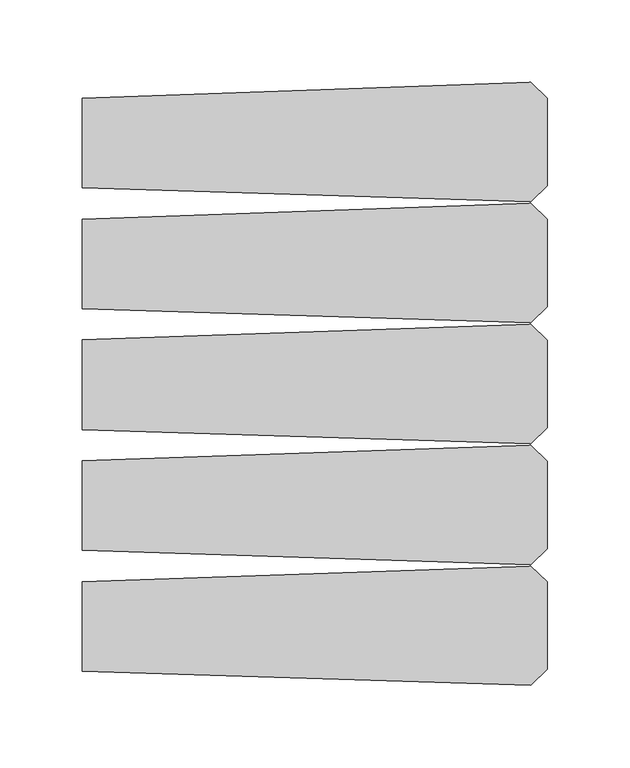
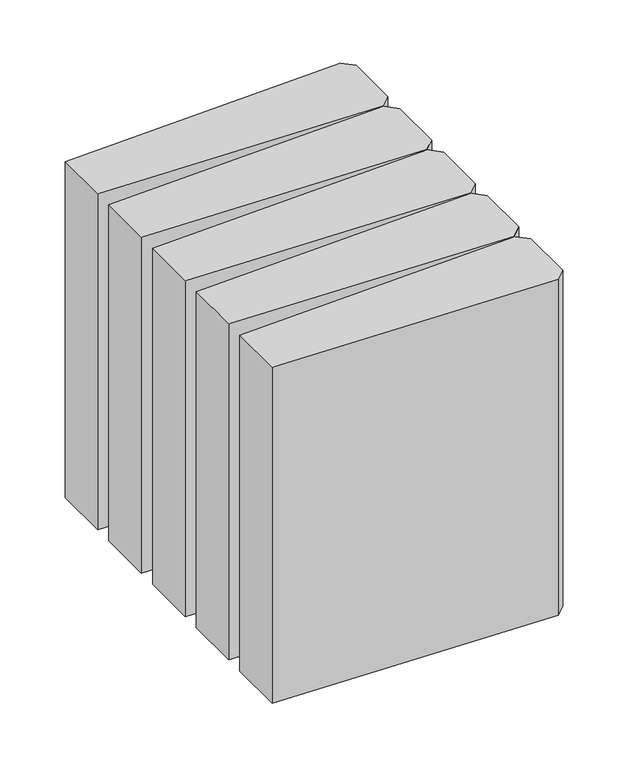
"""IFC4 building model written with IfcOpenShell, lengths in millimetres: geographic element geometry, Enscape AssetDefinition - Binders 001 : Enscape AssetDefinition - Binders 001."""

import ifcopenshell
import ifcopenshell.guid

model = None  # the IFC model being written
_history = None  # IfcOwnerHistory: only IFC2X3 demands one
_inside = {}  # id of a spatial element -> (the spatial element, [elements in it])
_under = {}  # id of a project, library or spatial element -> (it, [spatial elements below it])
_declared = {}  # id of a project -> (the project, [libraries it declares])
_typed = {}  # id of a type object -> (the type object, [elements of that type])
_made_of = {}  # id of a material, layer set ... -> (it, [elements and type objects made of it])


def new_model(schema):
    """Start an empty IFC model of exactly this schema.

    Asked for "IFC4X3", IfcOpenShell would pick the latest addendum, in which some entities
    have other attributes; the version numbers below select the first issue.
    IFC2X3 requires an IfcOwnerHistory on every rooted entity: one is made here for all.
    """
    global model, _history
    if schema == "IFC4X3":
        model = ifcopenshell.file(schema_version=(4, 3, 0, 0))
    else:
        model = ifcopenshell.file(schema=schema)
    _inside.clear()
    _under.clear()
    _declared.clear()
    _typed.clear()
    _made_of.clear()
    _history = None
    if model.schema == "IFC2X3":
        org = make("IfcOrganization", Name="unknown")
        user = make(
            "IfcPersonAndOrganization",
            ThePerson=make("IfcPerson", FamilyName="unknown"),
            TheOrganization=org,
        )
        app = make(
            "IfcApplication",
            ApplicationDeveloper=org,
            Version="unknown",
            ApplicationFullName="unknown",
            ApplicationIdentifier="unknown",
        )
        _history = make(
            "IfcOwnerHistory",
            OwningUser=user,
            OwningApplication=app,
            ChangeAction="ADDED",
            CreationDate=0,
        )
    return model


def make(cls, **values):
    """One entity of the class cls with the attributes given. An attribute that is None is left unset."""
    return model.create_entity(
        cls, **{name: value for name, value in values.items() if value is not None}
    )


def rooted(cls, **values):
    """An entity with a GlobalId (a new one), such as an element, a storey or a relation."""
    return make(cls, GlobalId=ifcopenshell.guid.new(), OwnerHistory=_history, **values)


def si_unit(unit_type, name, prefix=None):
    """IfcSIUnit, for example si_unit("LENGTHUNIT", "METRE", prefix="MILLI")."""
    return make("IfcSIUnit", UnitType=unit_type, Prefix=prefix, Name=name)


def assignment(units):
    """IfcUnitAssignment: the units of a project."""
    return None if units is None else make("IfcUnitAssignment", Units=units)


def point(xyz):
    """IfcCartesianPoint."""
    return None if xyz is None else make("IfcCartesianPoint", Coordinates=xyz)


def direction(xyz):
    """IfcDirection."""
    return None if xyz is None else make("IfcDirection", DirectionRatios=xyz)


def frame(location, z_axis=None, x_axis=None):
    """IfcAxis2Placement3D, a coordinate frame: its origin and axes. An axis left out is left unset."""
    return make(
        "IfcAxis2Placement3D",
        Location=point(location),
        Axis=direction(z_axis),
        RefDirection=direction(x_axis),
    )


def origin():
    """The frame at (0, 0, 0) with its axes left unset."""
    return frame((0.0, 0.0, 0.0))


def place(relative_to, where):
    """IfcLocalPlacement: puts the frame where relative to a parent placement (None: the world)."""
    return make(
        "IfcLocalPlacement", PlacementRelTo=relative_to, RelativePlacement=where
    )


def context(
    kind, dimensions, precision=None, world=None, true_north=None, identifier=None
):
    """IfcGeometricRepresentationContext, for example the 3D "Model" context."""
    return make(
        "IfcGeometricRepresentationContext",
        ContextIdentifier=identifier,
        ContextType=kind,
        CoordinateSpaceDimension=dimensions,
        Precision=precision,
        WorldCoordinateSystem=world,
        TrueNorth=true_north,
    )


def project(units=None, contexts=None):
    """IfcProject with its units and contexts."""
    return rooted(
        "IfcProject",
        Name="project",
        RepresentationContexts=contexts,
        UnitsInContext=assignment(units),
    )


def spatial(cls, under=None, at=None, **own):
    """A site, building, storey or space (cls), placed at a placement, below another one or the project."""
    s = rooted(cls, ObjectPlacement=at, **own)
    if under is not None:
        _under.setdefault(under.id(), (under, []))[1].append(s)
    return s


def point_list(points):
    """IfcCartesianPointList2D or 3D."""
    cls = (
        "IfcCartesianPointList2D" if len(points[0]) == 2 else "IfcCartesianPointList3D"
    )
    return make(cls, CoordList=points)


def triangles(points, corners, closed=None, point_numbers=None):
    """IfcTriangulatedFaceSet: each triangle names its three corners, points numbered from 1."""
    return make(
        "IfcTriangulatedFaceSet",
        Coordinates=point_list(points),
        Closed=closed,
        CoordIndex=corners,
        PnIndex=point_numbers,
    )


def shape(context_of_items, identifier, shape_type, items):
    """IfcShapeRepresentation: the items that make up one representation, for example the "Body"."""
    return make(
        "IfcShapeRepresentation",
        ContextOfItems=context_of_items,
        RepresentationIdentifier=identifier,
        RepresentationType=shape_type,
        Items=items,
    )


def source(mapping_origin, context_of_items, identifier, shape_type, items):
    """IfcRepresentationMap: a shape defined once, which mapped items show again and again."""
    return make(
        "IfcRepresentationMap",
        MappingOrigin=mapping_origin,
        MappedRepresentation=shape(context_of_items, identifier, shape_type, items),
    )


def transform(
    local_origin,
    x_axis=None,
    y_axis=None,
    z_axis=None,
    scale=None,
    scale2=None,
    scale3=None,
    uniform=True,
):
    """IfcCartesianTransformationOperator3D, or its non-uniform kind. x_axis, y_axis, z_axis: its Axis1, 2, 3."""
    if uniform:
        return make(
            "IfcCartesianTransformationOperator3D",
            Axis1=direction(x_axis),
            Axis2=direction(y_axis),
            LocalOrigin=point(local_origin),
            Scale=scale,
            Axis3=direction(z_axis),
        )
    return make(
        "IfcCartesianTransformationOperator3DnonUniform",
        Axis1=direction(x_axis),
        Axis2=direction(y_axis),
        LocalOrigin=point(local_origin),
        Scale=scale,
        Axis3=direction(z_axis),
        Scale2=scale2,
        Scale3=scale3,
    )


def mapped(mapping_source, mapping_target):
    """IfcMappedItem: shows the shape of a source again, moved by a transform."""
    return make(
        "IfcMappedItem", MappingSource=mapping_source, MappingTarget=mapping_target
    )


def made_of(thing, what):
    """Note that an element or type object is made of a material, layer set ...; save() writes the relation."""
    if what is not None:
        _made_of.setdefault(what.id(), (what, []))[1].append(thing)
    return thing


def element(
    cls,
    number,
    at=None,
    inside=None,
    cuts=None,
    type_object=None,
    material=None,
    context=None,
    identifier="Body",
    shape_type=None,
    held_by="IfcProductDefinitionShape",
    body=None,
    shapes=None,
    **own,
):
    """One element of the class cls, such as IfcWall. Its Tag is "e" and its number.

    at: its placement. inside: the storey or other place that contains it. cuts: it is an
    opening in that element (IfcRelVoidsElement). A single representation is given by context,
    identifier, shape_type and body (its items); several are given by shapes. held_by: the class
    of the entity that holds the representations. save() writes the other relations.
    """
    e = rooted(cls, Tag="e%d" % number, ObjectPlacement=at, **own)
    if body is not None:
        shapes = [shape(context, identifier, shape_type, body)]
    if shapes is not None:
        e.Representation = make(held_by, Representations=shapes)
    if inside is not None:
        _inside.setdefault(inside.id(), (inside, []))[1].append(e)
    if cuts is not None:
        rooted(
            "IfcRelVoidsElement", RelatingBuildingElement=cuts, RelatedOpeningElement=e
        )
    if type_object is not None:
        _typed.setdefault(type_object.id(), (type_object, []))[1].append(e)
    return made_of(e, material)


def aggregate(whole, parts):
    """IfcRelAggregates: a whole, such as a stair, and the parts it consists of."""
    return rooted("IfcRelAggregates", RelatingObject=whole, RelatedObjects=parts)


def save(model, path):
    """Write the relations noted so far, then the file.

    IfcRelAggregates (storeys below a building ...), IfcRelContainedInSpatialStructure (elements
    in a storey), IfcRelDefinesByType, IfcRelAssociatesMaterial and IfcRelDeclares: one each for
    every whole, place, type object, material and project.
    """
    for whole, parts in _under.values():
        aggregate(whole, parts)
    for where, things in _inside.values():
        rooted(
            "IfcRelContainedInSpatialStructure",
            RelatedElements=things,
            RelatingStructure=where,
        )
    for kind, things in _typed.values():
        rooted("IfcRelDefinesByType", RelatedObjects=things, RelatingType=kind)
    for what, things in _made_of.values():
        rooted("IfcRelAssociatesMaterial", RelatedObjects=things, RelatingMaterial=what)
    for by, libraries in _declared.values():
        rooted("IfcRelDeclares", RelatingContext=by, RelatedDefinitions=libraries)
    model.write(path)


def geographic_element_370a2df1(model_context):
    return source(origin(), model_context, "Body", "Tessellation", [
        triangles([(271.0359999, 183.0085605, 0.0), (-0.7310701, 119.1534283, 0.0), (271.0349825, 110.6115987, 0.0), (-0.7310701, 119.1534283, 344.1069757), (-0.7310701, 173.5126466, 0.0), (271.0349825, 110.6115987, 344.1069757), (281.0309566, 120.2995339, 0.0), (281.0309566, 120.2995339, 344.1069757), (281.0309566, 173.3456147, 0.0), (271.0359999, 183.0085605, 344.1069757), (281.0309566, 173.3456147, 344.1069757), (-0.7310701, 173.5126466, 344.1069757), (-0.7310701, 100.2276122, 0.0), (271.0349825, 37.3265779, 344.1069757), (-0.7310701, 45.8693977, 0.0), (271.0359999, 109.7245253, 0.0), (-0.7310701, 45.8693977, 344.1069757), (-0.7310701, 100.2276122, 344.1069757), (271.0349825, 37.3265779, 0.0), (281.0309566, 47.0145131, 344.1069757), (271.0359999, 109.7245253, 344.1069757), (281.0309566, 47.0145131, 0.0), (281.0309566, 100.0605984, 0.0), (281.0309566, 100.0605984, 344.1069757), (271.0359999, 36.4394932, 0.0), (-0.7310701, -27.4156299, 0.0), (-0.7310701, 26.9425824, 0.0), (-0.7310701, -27.4156299, 344.1069757), (271.0349825, -35.9574482, 344.1069757), (-0.7310701, 26.9425824, 344.1069757), (281.0309566, -26.2695175, 344.1069757), (281.0309566, 26.7765701, 344.1069757), (271.0359999, 36.4394932, 344.1069757), (281.0309566, -26.2695175, 0.0), (271.0349825, -35.9574482, 0.0), (281.0309566, 26.7765701, 0.0), (-0.7310701, -100.6996583, 0.0), (-0.7310701, -46.3414437, 0.0), (-0.7310701, -46.3414437, 344.1069757), (-0.7310701, -100.6996583, 344.1069757), (271.0359999, -36.8445329, 344.1069757), (271.0349825, -109.242469, 0.0), (271.0349825, -109.242469, 344.1069757), (281.0309566, -99.5545429, 344.1069757), (281.0309566, -46.508462, 344.1069757), (271.0359999, -36.8445329, 0.0), (281.0309566, -46.508462, 0.0), (281.0309566, -99.5545429, 0.0), (-0.7310701, -173.9846745, 0.0), (271.0349825, -182.5265041, 0.0), (271.0349825, -182.5265041, 344.1069757), (-0.7310701, -119.6264736, 0.0), (-0.7310701, -173.9846745, 344.1069757), (-0.7310701, -119.6264736, 344.1069757), (281.0309566, -172.8385599, 344.1069757), (281.0309566, -119.7924881, 344.1069757), (281.0309566, -172.8385599, 0.0), (271.0359999, -110.1295605, 0.0), (281.0309566, -119.7924881, 0.0), (271.0359999, -110.1295605, 344.1069757)], [[58, 59, 57], [59, 58, 60], [58, 54, 60], [59, 60, 56], [57, 59, 56], [57, 56, 55], [58, 57, 50], [50, 57, 55], [51, 56, 60], [51, 55, 56], [50, 55, 51], [53, 60, 54], [53, 51, 60], [52, 53, 54], [58, 52, 54], [52, 49, 53], [49, 51, 53], [49, 50, 51], [49, 58, 50], [49, 52, 58], [46, 47, 48], [47, 46, 41], [46, 39, 41], [47, 41, 45], [48, 47, 45], [48, 45, 44], [46, 48, 42], [42, 48, 44], [43, 45, 41], [43, 44, 45], [42, 44, 43], [40, 41, 39], [40, 43, 41], [38, 40, 39], [46, 38, 39], [38, 37, 40], [37, 43, 40], [37, 42, 43], [37, 46, 42], [37, 38, 46], [25, 36, 34], [36, 25, 33], [25, 30, 33], [36, 33, 32], [34, 36, 32], [34, 32, 31], [25, 34, 35], [35, 34, 31], [29, 32, 33], [29, 31, 32], [35, 31, 29], [28, 33, 30], [28, 29, 33], [27, 28, 30], [25, 27, 30], [27, 26, 28], [26, 29, 28], [26, 35, 29], [26, 25, 35], [26, 27, 25], [16, 23, 22], [23, 16, 21], [16, 18, 21], [23, 21, 24], [22, 23, 24], [22, 24, 20], [16, 22, 19], [19, 22, 20], [14, 24, 21], [14, 20, 24], [19, 20, 14], [17, 21, 18], [17, 14, 21], [13, 17, 18], [16, 13, 18], [13, 15, 17], [15, 14, 17], [15, 19, 14], [15, 16, 19], [15, 13, 16], [1, 9, 7], [9, 1, 10], [1, 12, 10], [9, 10, 11], [7, 9, 11], [7, 11, 8], [1, 7, 3], [3, 7, 8], [6, 11, 10], [6, 8, 11], [3, 8, 6], [4, 10, 12], [4, 6, 10], [5, 4, 12], [1, 5, 12], [5, 2, 4], [2, 6, 4], [2, 3, 6], [2, 1, 3], [2, 5, 1]]),
    ])


if __name__ == "__main__":
    model = new_model("IFC4")
    model_context = context("Model", 3, world=origin())
    ifc_project = project(units=[si_unit("LENGTHUNIT", "METRE", prefix="MILLI")], contexts=[model_context])
    site = spatial("IfcSite", under=ifc_project)
    building = spatial("IfcBuilding", under=site)
    placement = place(None, origin())
    geographic_element_shape = geographic_element_370a2df1(model_context)
    element("IfcGeographicElement", 1, ObjectType="Enscape AssetDefinition - Binders 001 : Enscape AssetDefinition - Binders 001", at=placement, inside=building, context=model_context, shape_type="MappedRepresentation", body=[
        mapped(geographic_element_shape, transform((0.0, 0.0, 0.0), x_axis=(1.0, 0.0, 0.0), y_axis=(0.0, 1.0, 0.0), z_axis=(0.0, 0.0, 1.0))),
    ])
    save(model, "model.ifc")
